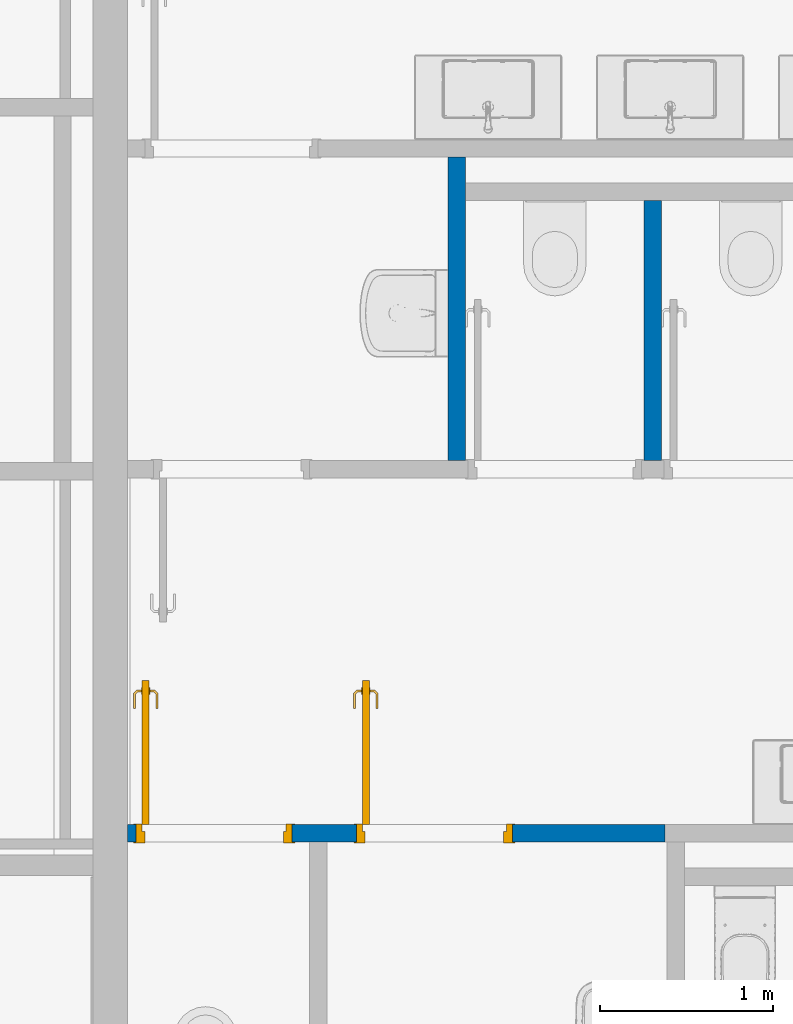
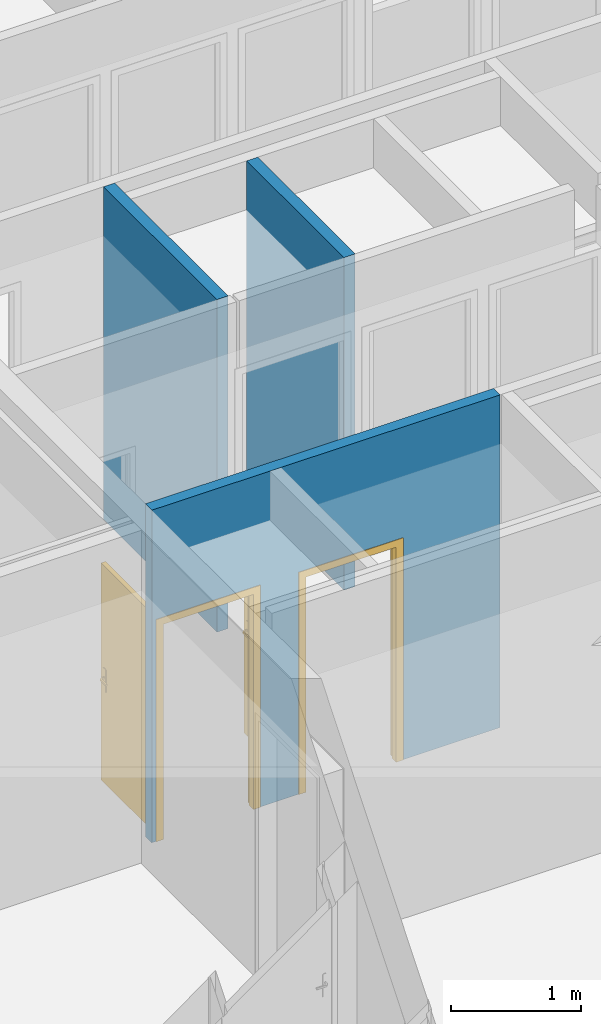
# One storey, part 117 of 240: 3 walls, 2 doors, 2 openings.
"""IFC2X3 building model written with IfcOpenShell, lengths in centimetres."""

from ifc_helpers import new_model, entity, si_unit, converted_unit, derived_unit, direction, frame, frame_2d, origin, place, context, subcontext, project, spatial, polyline, rectangle, extrude, clip, bounded_halfspace, faceted_brep, source, transform, mapped, material, material_list, layer, layer_set, layer_usage, type_object, type_shapes, element, fill, save


model = new_model("IFC2X3")

# Units and contexts
model_context = context("Model", 3, precision=0.001, world=origin(), true_north=direction((6.12303176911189e-17, 1.0)))
body_context = subcontext(model_context, "Body", "Model", "MODEL_VIEW")
ifc_project = project(units=[si_unit("LENGTHUNIT", "METRE", prefix="CENTI"), si_unit("AREAUNIT", "SQUARE_METRE"), si_unit("VOLUMEUNIT", "CUBIC_METRE"), converted_unit("PLANEANGLEUNIT", "DEGREE", entity("IfcRatioMeasure", 0.0174532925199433), si_unit("PLANEANGLEUNIT", "RADIAN"), dimensions=[0, 0, 0, 0, 0, 0, 0]), si_unit("MASSUNIT", "GRAM", prefix="KILO"), derived_unit("MASSDENSITYUNIT", [(si_unit("MASSUNIT", "GRAM", prefix="KILO"), 1), (si_unit("LENGTHUNIT", "METRE"), -3)]), si_unit("TIMEUNIT", "SECOND"), si_unit("FREQUENCYUNIT", "HERTZ"), si_unit("THERMODYNAMICTEMPERATUREUNIT", "DEGREE_CELSIUS"), derived_unit("THERMALTRANSMITTANCEUNIT", [(si_unit("MASSUNIT", "GRAM", prefix="KILO"), 1), (si_unit("THERMODYNAMICTEMPERATUREUNIT", "KELVIN"), -1), (si_unit("TIMEUNIT", "SECOND"), -3)]), derived_unit("VOLUMETRICFLOWRATEUNIT", [(si_unit("LENGTHUNIT", "METRE"), 3), (si_unit("TIMEUNIT", "SECOND"), -1)]), si_unit("ELECTRICCURRENTUNIT", "AMPERE"), si_unit("ELECTRICVOLTAGEUNIT", "VOLT"), si_unit("POWERUNIT", "WATT"), si_unit("FORCEUNIT", "NEWTON", prefix="KILO"), si_unit("ILLUMINANCEUNIT", "LUX"), si_unit("LUMINOUSFLUXUNIT", "LUMEN"), si_unit("LUMINOUSINTENSITYUNIT", "CANDELA"), derived_unit("USERDEFINED", [(si_unit("MASSUNIT", "GRAM", prefix="KILO"), -1), (si_unit("LENGTHUNIT", "METRE"), -2), (si_unit("TIMEUNIT", "SECOND"), 3), (si_unit("LUMINOUSFLUXUNIT", "LUMEN"), 1)]), derived_unit("LINEARVELOCITYUNIT", [(si_unit("LENGTHUNIT", "METRE"), 1), (si_unit("TIMEUNIT", "SECOND"), -1)]), si_unit("PRESSUREUNIT", "PASCAL"), derived_unit("USERDEFINED", [(si_unit("LENGTHUNIT", "METRE"), -2), (si_unit("MASSUNIT", "GRAM", prefix="KILO"), 1), (si_unit("TIMEUNIT", "SECOND"), -2)])], contexts=[model_context])

# Site, building, storey
site_placement = place(None, frame((-2781.94577612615, 7442.24238424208, 0.0)))
site = spatial("IfcSite", under=ifc_project, at=site_placement, Name="Default", CompositionType="ELEMENT")
building_placement = place(site_placement, origin())
building = spatial("IfcBuilding", under=site, at=building_placement, CompositionType="ELEMENT")
storey_placement = place(building_placement, origin())
storey = spatial("IfcBuildingStorey", under=building, at=storey_placement, Name="N00 - COO", CompositionType="ELEMENT", Elevation=0.0)

# Walls
ifc_material_1 = material(Name="01 - Enduit/Plâtre")
ifc_layer_1 = layer(ifc_material_1, 1.3)
ifc_material_2 = material(Name="Terre cuite")
ifc_layer_2 = layer(ifc_material_2, 7.4)
ifc_layer_3 = layer(ifc_material_1, 1.3)
ifc_layer_set = layer_set([ifc_layer_1, ifc_layer_2, ifc_layer_3], Name="Mur de base:06 - cloisons - Carreau de terre cuite (10cm)")
ifc_layer_usage_1 = layer_usage(ifc_layer_set, "AXIS2", "NEGATIVE", 5.0)
wall_type = type_object("IfcWallType", Name="Mur de base:06 - cloisons - Carreau de terre cuite (10cm)", PredefinedType="STANDARD", material=ifc_layer_set)
wall_1_placement = place(building_placement, frame((-9487.0, -2625.07903364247, 0.0), z_axis=(0.0, 0.0, 1.0), x_axis=(0.0, -1.0, 0.0)))
element("IfcWallStandardCase", 1, at=wall_1_placement, inside=storey, type_object=wall_type, material=ifc_layer_usage_1, Name="Mur de base:06 - cloisons - Carreau de terre cuite (10cm)", ObjectType="Mur de base:06 - cloisons - Carreau de terre cuite (10cm)", context=body_context, shape_type="SweptSolid", body=[
    extrude(rectangle(XDim=175.0, YDim=10.0000000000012, at=frame_2d((87.5, 0.0), x_axis=(-1.0, 0.0))), origin(), (0.0, 0.0, 1.0), 313.0),
])
ifc_layer_usage_2 = layer_usage(ifc_layer_set, "AXIS2", "NEGATIVE", 5.0)
wall_2_placement = place(building_placement, frame((-9374.01666889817, -2650.07903364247, 0.0), z_axis=(0.0, 0.0, 1.0), x_axis=(0.0, -1.0, 0.0)))
element("IfcWallStandardCase", 2, at=wall_2_placement, inside=storey, type_object=wall_type, material=ifc_layer_usage_2, Name="Mur de base:06 - cloisons - Carreau de terre cuite (10cm)", ObjectType="Mur de base:06 - cloisons - Carreau de terre cuite (10cm)", context=body_context, shape_type="SweptSolid", body=[
    extrude(rectangle(XDim=150.0, YDim=10.0000000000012, at=frame_2d((75.0000000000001, 0.0), x_axis=(-1.0, 0.0))), origin(), (0.0, 0.0, 1.0), 313.0),
])

# Wall, openings, doors
ifc_layer_usage_3 = layer_usage(ifc_layer_set, "AXIS2", "NEGATIVE", 5.0)
wall_3_placement = place(building_placement, frame((-9677.0, -3015.07903364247, 0.0)))
wall_3 = element("IfcWallStandardCase", 3, at=wall_3_placement, inside=storey, type_object=wall_type, material=ifc_layer_usage_3, Name="Mur de base:06 - cloisons - Carreau de terre cuite (10cm)", ObjectType="Mur de base:06 - cloisons - Carreau de terre cuite (10cm)", context=body_context, shape_type="Clipping", body=[
    clip(extrude(rectangle(XDim=310.000000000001, YDim=10.0000000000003, at=frame_2d((155.0, -1.04360964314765e-13), x_axis=(-1.0, 0.0))), origin(), (0.0, 0.0, 1.0), 313.0), bounded_halfspace(frame((0.0, -5.0, 313.0)), False, frame((0.0, -5.0, 313.0)), polyline([(0.0, 0.0), (105.0, 0.0), (115.0, 0.0), (310.0, 0.0), (310.0, 10.0), (0.0, 10.0), (0.0, 0.0)]))),
])
opening_1_placement = place(wall_3_placement, frame((5.00000302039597, -5.0, 0.0)))
opening_1 = element("IfcOpeningElement", 4, at=opening_1_placement, cuts=wall_3, Name="Int. Simple:PP (0.83m x 2.04m):1", ObjectType="Opening", context=body_context, shape_type="SweptSolid", body=[
    extrude(rectangle(XDim=207.5, YDim=90.0, at=frame_2d((103.75, 45.0000000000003), x_axis=(1.0, 0.0))), frame((0.0, 0.0, 0.0), z_axis=(0.0, 1.0, 0.0), x_axis=(0.0, 0.0, 1.0)), (0.0, 0.0, 1.0), 10.0),
])
opening_2_placement = place(wall_3_placement, frame((132.000003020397, -5.0, 0.0)))
opening_2 = element("IfcOpeningElement", 5, at=opening_2_placement, cuts=wall_3, Name="Int. Simple:PP (0.83m x 2.04m):1", ObjectType="Opening", context=body_context, shape_type="SweptSolid", body=[
    extrude(rectangle(XDim=207.5, YDim=90.0, at=frame_2d((103.75, 45.0000000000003), x_axis=(1.0, 0.0))), frame((0.0, 0.0, 0.0), z_axis=(0.0, 1.0, 0.0), x_axis=(0.0, 0.0, 1.0)), (0.0, 0.0, 1.0), 10.0),
])
ifc_material_3 = material(Name="Finition Peinture - Blanc satiné")
ifc_material_4 = material(Name="Bois - Panneau de porte")
ifc_material_5 = material(Name="Bois - Cadre de porte")
ifc_material_list_1 = material_list([ifc_material_3, ifc_material_4, ifc_material_5])
ifc_material_list_2 = material_list([ifc_material_3, ifc_material_4, ifc_material_5])
door_style = type_object("IfcDoorStyle", Name="PP (0.83m x 2.04m)", ConstructionType="NOTDEFINED", OperationType="SINGLE_SWING_LEFT", ParameterTakesPrecedence=False, Sizeable=False, material=ifc_material_list_2)
shared_shape = source(origin(), body_context, "Body", "Brep", [
    faceted_brep([(87.0, -75.9647238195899, 86.6003983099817), (87.0, -75.0, 87.0), (87.0, -75.0, 108.0), (87.0, -75.96472381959, 108.399601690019), (87.0, -77.0, 108.535898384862), (87.0, -78.0352761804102, 108.399601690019), (87.0, -79.0, 108.0), (87.0, -79.0, 87.0), (87.0, -78.0352761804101, 86.6003983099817), (87.0, -77.0, 86.464101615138), (86.4999999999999, -75.96472381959, 108.399601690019), (86.4999999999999, -75.0, 108.0), (86.4999999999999, -75.0, 87.0), (86.4999999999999, -75.9647238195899, 86.6003983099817), (86.4999999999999, -77.0, 86.464101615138), (86.4999999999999, -78.0352761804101, 86.6003983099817), (86.4999999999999, -79.0, 87.0), (86.4999999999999, -79.0, 108.0), (86.4999999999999, -78.0352761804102, 108.399601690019), (86.4999999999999, -77.0, 108.535898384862)], [[[0, 1, 2, 3, 4, 5, 6, 7, 8, 9]], [[10, 11, 12, 13, 14, 15, 16, 17, 18, 19]], [[16, 15, 8, 7]], [[8, 15, 14, 9]], [[14, 13, 0, 9]], [[13, 12, 1, 0]], [[2, 1, 12, 11]], [[11, 10, 3, 2]], [[3, 10, 19, 4]], [[19, 18, 5, 4]], [[18, 17, 6, 5]], [[7, 6, 17, 16]]]),
    faceted_brep([(82.4999999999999, -75.9647238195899, 86.6003983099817), (82.4999999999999, -75.0, 87.0), (82.4999999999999, -75.0, 108.0), (82.4999999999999, -75.9647238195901, 108.399601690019), (82.4999999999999, -77.0, 108.535898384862), (82.4999999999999, -78.0352761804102, 108.399601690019), (82.4999999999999, -79.0, 108.0), (82.4999999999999, -79.0, 87.0), (82.4999999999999, -78.0352761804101, 86.6003983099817), (82.4999999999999, -77.0, 86.464101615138), (82.0, -75.9647238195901, 108.399601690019), (82.0, -75.0, 108.0), (82.0, -75.0, 87.0), (82.0, -75.9647238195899, 86.6003983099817), (82.0, -77.0, 86.464101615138), (82.0, -78.0352761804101, 86.6003983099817), (82.0, -79.0, 87.0), (82.0, -79.0, 108.0), (82.0, -78.0352761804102, 108.399601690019), (82.0, -77.0, 108.535898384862)], [[[0, 1, 2, 3, 4, 5, 6, 7, 8, 9]], [[10, 11, 12, 13, 14, 15, 16, 17, 18, 19]], [[11, 10, 3, 2]], [[3, 10, 19, 4]], [[19, 18, 5, 4]], [[18, 17, 6, 5]], [[7, 6, 17, 16]], [[16, 15, 8, 7]], [[8, 15, 14, 9]], [[14, 13, 0, 9]], [[13, 12, 1, 0]], [[2, 1, 12, 11]]]),
    faceted_brep([(87.0, -77.2025298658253, 100.778044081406), (87.0, -76.7974701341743, 100.778044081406), (87.0, -76.3999999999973, 100.699999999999), (87.0, -76.3999999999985, 99.3000000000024), (87.0, -76.7974701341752, 99.2219559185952), (87.0, -77.2025298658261, 99.221955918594), (87.0, -77.6000000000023, 99.2999999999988), (87.0, -77.6000000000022, 100.7), (89.7650950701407, -77.6000000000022, 100.7), (89.6004575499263, -77.2025298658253, 100.778044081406), (91.2053459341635, -75.597641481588, 100.778044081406), (90.8002862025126, -75.429860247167, 100.778044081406), (89.4326763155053, -76.7974701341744, 100.778044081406), (89.2680387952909, -76.3999999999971, 100.7), (89.2680387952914, -76.3999999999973, 99.3000000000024), (89.4326763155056, -76.7974701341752, 99.2219559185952), (90.8002862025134, -75.4298602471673, 99.2219559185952), (91.2053459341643, -75.5976414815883, 99.221955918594), (89.6004575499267, -77.2025298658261, 99.221955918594), (89.7650950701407, -77.6000000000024, 99.2999999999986), (91.6028160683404, -75.7622790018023, 100.7), (90.4028160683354, -75.2652227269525, 100.7), (90.4028160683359, -75.2652227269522, 99.3000000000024), (91.6028160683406, -75.7622790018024, 99.2999999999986), (91.6028160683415, -66.9981359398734, 99.2999999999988), (91.2053459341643, -66.9981359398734, 99.221955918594), (90.8002862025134, -66.9981359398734, 99.2219559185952), (90.4028160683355, -66.9981359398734, 99.3000000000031), (90.4028160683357, -66.9981359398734, 100.7), (90.8002862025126, -66.9981359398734, 100.778044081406), (91.2053459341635, -66.9981359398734, 100.778044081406), (91.6028160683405, -66.9981359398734, 100.699999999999), (91.6028160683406, -71.7692302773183, 100.7), (91.0028160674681, -71.2139980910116, 100.78786867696), (90.4028160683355, -71.131679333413, 100.7), (90.4028160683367, -71.1316793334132, 99.3000000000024), (91.0028160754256, -71.2139981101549, 99.2121313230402), (91.602816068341, -71.7692299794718, 99.2999999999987)], [[[0, 1, 2, 3, 4, 5, 6, 7]], [[8, 9, 0, 7]], [[9, 10, 11, 12, 1, 0]], [[12, 13, 2, 1]], [[3, 2, 13, 14]], [[14, 15, 4, 3]], [[15, 16, 17, 18, 5, 4]], [[18, 19, 6, 5]], [[7, 6, 19, 8]], [[20, 10, 9, 8]], [[11, 21, 13, 12]], [[14, 13, 21, 22]], [[22, 16, 15, 14]], [[17, 23, 19, 18]], [[8, 19, 23, 20]], [[24, 25, 26, 27, 28, 29, 30, 31]], [[32, 30, 33]], [[31, 30, 32]], [[10, 20, 32]], [[33, 34, 11]], [[21, 11, 34]], [[34, 29, 28]], [[30, 29, 33]], [[29, 34, 33]], [[10, 32, 33]], [[10, 33, 11]], [[22, 21, 34, 28, 27, 35]], [[35, 26, 36]], [[37, 36, 25]], [[22, 35, 16]], [[35, 27, 26]], [[24, 37, 25]], [[23, 17, 37]], [[37, 17, 36]], [[17, 16, 36]], [[16, 35, 36]], [[25, 36, 26]], [[20, 23, 37, 24, 31, 32]]]),
    faceted_brep([(82.0, -77.202529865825, 100.778044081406), (82.0, -77.600000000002, 100.7), (82.0, -77.600000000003, 99.2999999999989), (82.0, -77.2025298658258, 99.221955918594), (82.0, -76.7974701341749, 99.2219559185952), (82.0, -76.399999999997, 99.3000000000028), (82.0, -76.3999999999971, 100.7), (82.0, -76.797470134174, 100.778044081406), (79.7514795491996, -76.399999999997, 99.3000000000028), (79.7514795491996, -76.399999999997, 100.7), (79.5868420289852, -76.797470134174, 100.778044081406), (78.2054812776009, -75.4161093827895, 100.778044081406), (77.8004215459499, -75.5838906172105, 100.778044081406), (79.4190607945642, -77.2025298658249, 100.778044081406), (79.2544232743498, -77.6000000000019, 100.7), (79.2544232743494, -77.600000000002, 99.2999999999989), (79.4190607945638, -77.2025298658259, 99.221955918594), (77.8004215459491, -75.5838906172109, 99.221955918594), (78.2054812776, -75.4161093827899, 99.2219559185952), (79.5868420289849, -76.7974701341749, 99.2219559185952), (78.6029514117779, -75.2514718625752, 99.3000000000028), (78.6029514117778, -75.2514718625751, 100.7), (77.4029514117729, -75.7485281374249, 100.7), (77.4029514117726, -75.7485281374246, 99.2999999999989), (78.6029514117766, -66.9954216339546, 99.3000000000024), (78.2054812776, -66.9954216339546, 99.2219559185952), (77.8004215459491, -66.9954216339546, 99.221955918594), (77.4029514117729, -66.9954216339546, 99.2999999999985), (77.402951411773, -66.9954216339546, 100.7), (77.8004215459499, -66.9954216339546, 100.778044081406), (78.2054812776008, -66.9954216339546, 100.778044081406), (78.6029514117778, -66.9954216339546, 100.7), (78.6029514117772, -71.1234479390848, 99.3000000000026), (78.6029514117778, -71.1234467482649, 100.7), (78.0029514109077, -71.2057655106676, 100.78786867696), (77.402951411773, -71.7554794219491, 100.7), (77.4029514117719, -71.7554795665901, 99.2999999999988), (78.0029514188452, -71.2057654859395, 99.2121313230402)], [[[0, 1, 2, 3, 4, 5, 6, 7]], [[6, 5, 8, 9]], [[9, 10, 7, 6]], [[10, 11, 12, 13, 0, 7]], [[13, 14, 1, 0]], [[2, 1, 14, 15]], [[15, 16, 3, 2]], [[16, 17, 18, 19, 4, 3]], [[19, 8, 5, 4]], [[9, 8, 20, 21]], [[21, 11, 10, 9]], [[12, 22, 14, 13]], [[15, 14, 22, 23]], [[23, 17, 16, 15]], [[18, 20, 8, 19]], [[24, 25, 26, 27, 28, 29, 30, 31]], [[21, 20, 32, 24, 31, 33]], [[33, 30, 34]], [[35, 34, 29]], [[21, 33, 11]], [[33, 31, 30]], [[28, 35, 29]], [[22, 12, 35]], [[35, 12, 34]], [[12, 11, 34]], [[11, 33, 34]], [[29, 34, 30]], [[22, 35, 28, 27, 36, 23]], [[36, 26, 37]], [[27, 26, 36]], [[17, 23, 36]], [[37, 32, 18]], [[20, 18, 32]], [[32, 25, 24]], [[26, 25, 37]], [[25, 32, 37]], [[17, 36, 37]], [[17, 37, 18]]]),
    faceted_brep([(82.4999999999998, -83.0, 204.0), (82.5, 0.0, 204.0), (82.5, 0.0, 0.0), (82.4999999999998, -83.0, 0.0), (86.4999999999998, -83.0, 204.0), (86.4999999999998, -83.0, 0.0), (86.5, 0.0, 0.0), (86.5, 0.0, 204.0)], [[[0, 1, 2, 3]], [[4, 5, 6, 7]], [[1, 0, 4, 7]], [[2, 1, 7, 6]], [[3, 2, 6, 5]], [[0, 3, 5, 4]]]),
    faceted_brep([(0.0, 10.0, 0.0), (-1.50000000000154, 10.0, 0.0), (-1.50000000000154, 10.5000000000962, 0.0), (5.0, 10.5000000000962, 0.0), (5.0, 4.0, 0.0), (3.49999999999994, 4.0, 0.0), (3.49999999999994, -0.49999999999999, 0.0), (-1.50000000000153, -0.49999999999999, 0.0), (-1.50000000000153, 0.0, 0.0), (0.0, 0.0, 0.0), (0.0, 0.0, 207.500000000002), (0.0, 10.0, 207.500000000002), (90.0, 10.0, 207.500000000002), (90.0, 10.0, 0.0), (91.5000000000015, 10.0, 0.0), (91.5000000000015, 10.0, 209.0), (-1.50000000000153, 10.0, 209.0), (5.0, 10.5000000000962, 202.5), (5.0, 4.0, 202.5), (85.0, 4.0, 202.5), (85.0, 4.0, 0.0), (86.5, 4.0, 0.0), (86.5000000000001, 4.0, 204.0), (3.49999999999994, 4.0, 204.0), (90.0, 0.0, 207.500000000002), (90.0, 0.0, 0.0), (91.5000000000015, 0.0, 0.0), (91.5000000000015, -0.49999999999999, 0.0), (86.5, -0.49999999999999, 0.0), (85.0, 10.5000000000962, 0.0), (91.5000000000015, 10.5000000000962, 0.0), (85.0, 10.5000000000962, 202.5), (3.49999999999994, -0.49999999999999, 204.0), (86.5, -0.49999999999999, 204.0), (91.5000000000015, -0.49999999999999, 209.0), (-1.50000000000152, -0.49999999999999, 209.0), (-1.50000000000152, 0.0, 209.0), (91.5000000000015, 0.0, 209.0), (-1.50000000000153, 10.5000000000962, 209.0), (91.5000000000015, 10.5000000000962, 209.0)], [[[0, 1, 2, 3, 4, 5, 6, 7, 8, 9]], [[0, 9, 10, 11]], [[1, 0, 11, 12, 13, 14, 15, 16]], [[3, 17, 18, 4]], [[5, 4, 18, 19, 20, 21, 22, 23]], [[12, 24, 25, 13]], [[13, 25, 26, 27, 28, 21, 20, 29, 30, 14]], [[19, 31, 29, 20]], [[11, 10, 24, 12]], [[18, 17, 31, 19]], [[5, 23, 32, 6]], [[7, 6, 32, 33, 28, 27, 34, 35]], [[8, 7, 35, 36]], [[9, 8, 36, 37, 26, 25, 24, 10]], [[2, 1, 16, 38]], [[3, 2, 38, 39, 30, 29, 31, 17]], [[33, 22, 21, 28]], [[37, 34, 27, 26]], [[39, 15, 14, 30]], [[32, 23, 22, 33]], [[36, 35, 34, 37]], [[38, 16, 15, 39]]]),
])
type_shapes(door_style, [shared_shape])
door_1_placement = place(opening_1_placement, frame((89.9999969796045, 10.0, 0.0), z_axis=(0.0, 0.0, 1.0), x_axis=(-1.0, 0.0, 0.0)))
door_1 = element("IfcDoor", 6, at=door_1_placement, inside=storey, type_object=door_style, material=ifc_material_list_1, Name="Int. Simple:PP (0.83m x 2.04m)", ObjectType="Int. Simple:PP (0.83m x 2.04m)", OverallHeight=207.5, OverallWidth=90.0000000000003, context=body_context, shape_type="MappedRepresentation", body=[
    mapped(shared_shape, transform((0.0, 0.0, 0.0), scale=1.0)),
])
fill(opening_1, door_1)
ifc_material_list_3 = material_list([ifc_material_3, ifc_material_4, ifc_material_5])
door_2_placement = place(opening_2_placement, frame((89.9999969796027, 10.0, 0.0), z_axis=(0.0, 0.0, 1.0), x_axis=(-1.0, 0.0, 0.0)))
door_2 = element("IfcDoor", 7, at=door_2_placement, inside=storey, type_object=door_style, material=ifc_material_list_3, Name="Int. Simple:PP (0.83m x 2.04m)", ObjectType="Int. Simple:PP (0.83m x 2.04m)", OverallHeight=207.5, OverallWidth=90.0000000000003, context=body_context, shape_type="MappedRepresentation", body=[
    mapped(shared_shape, transform((0.0, 0.0, 0.0), scale=1.0)),
])
fill(opening_2, door_2)

save(model, "model.ifc")
